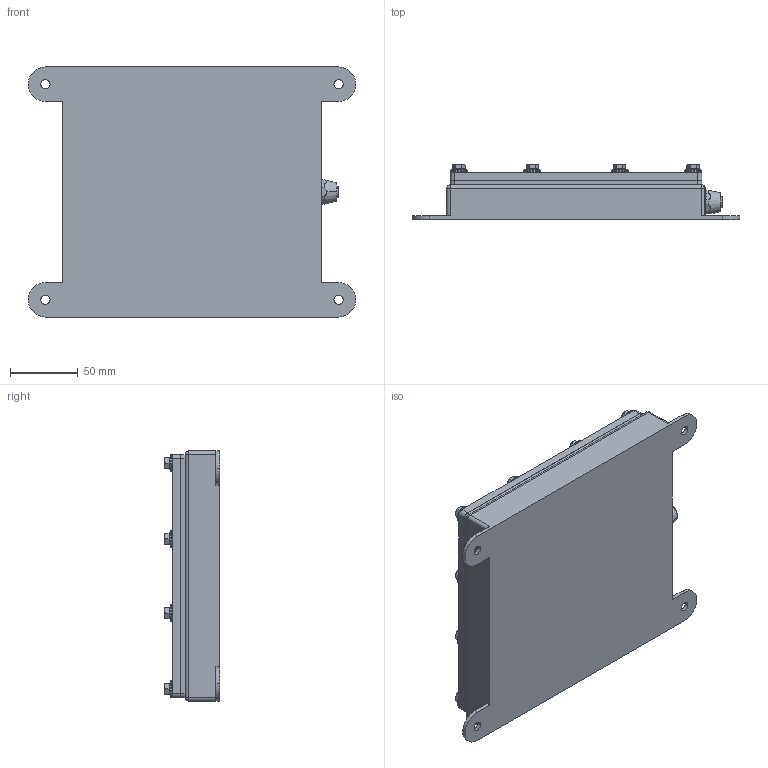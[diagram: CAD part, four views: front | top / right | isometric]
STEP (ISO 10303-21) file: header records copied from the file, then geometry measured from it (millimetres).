
FILE_DESCRIPTION (( 'STEP AP214' ), '1' );
FILE_NAME ('SOBLW-150x150.STEP', '2010-07-29T12:51:14', ( 'Chris Mcgeary' ), ( 'Allison Park Group' ), 'SwSTEP 2.0', 'SolidWorks 2010', '' );
FILE_SCHEMA (( 'AUTOMOTIVE_DESIGN' ));
Length unit declared in the file: millimetre
Products named in the file (1): SOBLW-150x150
Bounding box: 241.3 x 40.56 x 184.15 mm (x, y, z)
Volume: 1207107.7 mm3; surface area: 106962.5 mm2
Topology: 1 solids, 15 shells, 567 faces, 1343 edges, 832 vertices
Faces by surface type: plane 248, cylinder 174, cone 100, bspline 43, torus 2
Entity records: 24735 total; most frequent: CARTESIAN_POINT 5547, DIRECTION 2726, ORIENTED_EDGE 2678, EDGE_CURVE 1339, AXIS2_PLACEMENT_3D 1067, VERTEX_POINT 832, EDGE_LOOP 633, VECTOR 592
